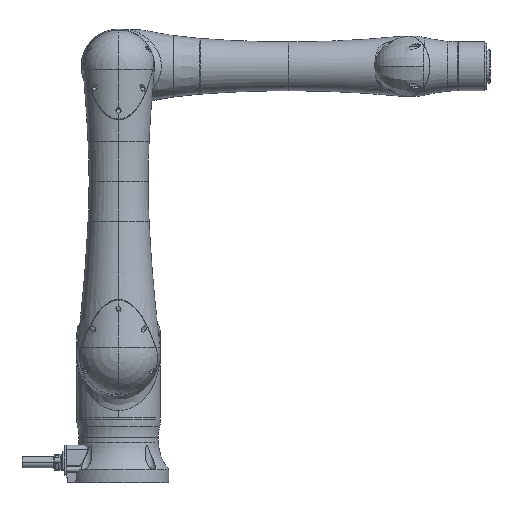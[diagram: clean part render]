
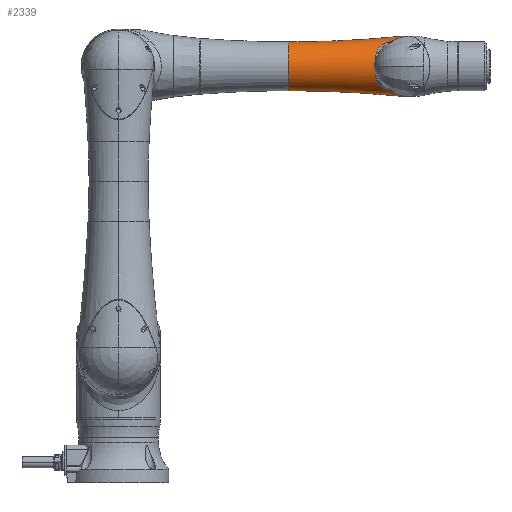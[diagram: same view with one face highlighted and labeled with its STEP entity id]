
A CAD part, front view. The second image highlights one B-rep face of the part: STEP entity #2339.
In plain terms, the highlighted toroidal (fillet/blend) face has major radius 2188.66 mm and minor radius 2142.66 mm.
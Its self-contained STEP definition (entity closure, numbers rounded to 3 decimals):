
#2339=ADVANCED_FACE('',(#5158),#5159,.F.);
#5158=FACE_OUTER_BOUND('',#28033,.T.);
#5159=TOROIDAL_SURFACE('',#28034,2188.661,2142.661);
#28033=EDGE_LOOP('',(#41183,#41184,#41185,#41186,#41187,#41188,#41189));
#28034=AXIS2_PLACEMENT_3D('',#41190,#41191,#41192);
#41183=ORIENTED_EDGE('',*,*,#48132,.F.);
#41184=ORIENTED_EDGE('',*,*,#48133,.T.);
#41185=ORIENTED_EDGE('',*,*,#48134,.T.);
#41186=ORIENTED_EDGE('',*,*,#48135,.T.);
#41187=ORIENTED_EDGE('',*,*,#48136,.T.);
#41188=ORIENTED_EDGE('',*,*,#48137,.T.);
#41189=ORIENTED_EDGE('',*,*,#48138,.T.);
#41190=CARTESIAN_POINT('',(-219.23,0.0,0.0));
#41191=DIRECTION('',(-1.0,0.0,0.0));
#41192=DIRECTION('',(0.0,0.0,1.0));
#48132=EDGE_CURVE('',#52501,#52502,#52503,.T.);
#48133=EDGE_CURVE('',#52501,#52504,#52505,.T.);
#48134=EDGE_CURVE('',#52504,#52506,#52507,.T.);
#48135=EDGE_CURVE('',#52506,#52508,#52509,.T.);
#48136=EDGE_CURVE('',#52508,#52510,#52511,.T.);
#48137=EDGE_CURVE('',#52510,#52512,#52513,.T.);
#48138=EDGE_CURVE('',#52512,#52502,#52514,.T.);
#52501=VERTEX_POINT('',#68999);
#52502=VERTEX_POINT('',#69000);
#52503=CIRCLE('',#69001,46.);
#52504=VERTEX_POINT('',#69002);
#52505=CIRCLE('',#69003,2142.661);
#52506=VERTEX_POINT('',#69004);
#52507=CIRCLE('',#69005,56.761);
#52508=VERTEX_POINT('',#69006);
#52509=B_SPLINE_CURVE_WITH_KNOTS('',3,(#69007,#69008,#69009,#69010,#69011,#69012,#69013,#69014,#69015,#69016,#69017,#69018,#69019,#69020,#69021,#69022,#69023,#69024,#69025,#69026,#69027,#69028,#69029,#69030,#69031,#69032,#69033,#69034,#69035,#69036,#69037,#69038,#69039,#69040,#69041,#69042,#69043,#69044,#69045,#69046),.UNSPECIFIED.,.F.,.F.,(4,1,1,1,1,1,1,1,1,1,1,1,1,1,1,1,1,1,1,1,1,1,1,1,1,1,1,1,1,1,1,1,1,1,1,1,1,4),(0.0,0.009,0.019,0.028,0.037,0.047,0.056,0.065,0.075,0.084,0.124,0.164,0.203,0.24,0.275,0.31,0.342,0.375,0.406,0.436,0.493,0.549,0.603,0.631,0.659,0.714,0.77,0.799,0.828,0.857,0.886,0.915,0.929,0.943,0.957,0.971,0.986,1.0),.UNSPECIFIED.);
#52510=VERTEX_POINT('',#69047);
#52511=B_SPLINE_CURVE_WITH_KNOTS('',3,(#69048,#69049,#69050,#69051,#69052,#69053,#69054,#69055,#69056,#69057,#69058,#69059,#69060,#69061,#69062,#69063,#69064,#69065,#69066,#69067,#69068,#69069,#69070,#69071,#69072,#69073,#69074,#69075,#69076,#69077,#69078,#69079,#69080,#69081,#69082,#69083,#69084),.UNSPECIFIED.,.F.,.F.,(4,1,1,1,1,1,1,1,1,1,1,1,1,1,1,1,1,1,1,1,1,1,1,1,1,1,1,1,1,1,1,1,1,1,4),(0.0,0.007,0.015,0.022,0.031,0.039,0.048,0.057,0.071,0.086,0.1,0.114,0.143,0.172,0.202,0.23,0.286,0.314,0.342,0.397,0.451,0.507,0.565,0.626,0.69,0.76,0.797,0.835,0.875,0.915,0.932,0.949,0.966,0.983,1.0),.UNSPECIFIED.);
#52512=VERTEX_POINT('',#69085);
#52513=CIRCLE('',#69086,56.761);
#52514=CIRCLE('',#69087,2142.661);
#68999=CARTESIAN_POINT('',(-219.23,0.,-46.));
#69000=CARTESIAN_POINT('',(-219.23,0.,46.));
#69001=AXIS2_PLACEMENT_3D('',#80707,#80708,#80709);
#69002=CARTESIAN_POINT('',(-4.753,0.,-56.761));
#69003=AXIS2_PLACEMENT_3D('',#80710,#80711,#80712);
#69004=CARTESIAN_POINT('',(-4.753,-25.13,-50.895));
#69005=AXIS2_PLACEMENT_3D('',#80713,#80714,#80715);
#69006=CARTESIAN_POINT('',(-55.235,-52.285,0.));
#69007=CARTESIAN_POINT('',(-4.753,-25.13,-50.895));
#69008=CARTESIAN_POINT('',(-5.034,-25.122,-50.868));
#69009=CARTESIAN_POINT('',(-5.596,-25.106,-50.813));
#69010=CARTESIAN_POINT('',(-6.439,-25.094,-50.725));
#69011=CARTESIAN_POINT('',(-7.28,-25.09,-50.633));
#69012=CARTESIAN_POINT('',(-8.12,-25.096,-50.537));
#69013=CARTESIAN_POINT('',(-8.958,-25.111,-50.437));
#69014=CARTESIAN_POINT('',(-9.794,-25.136,-50.333));
#69015=CARTESIAN_POINT('',(-10.629,-25.17,-50.224));
#69016=CARTESIAN_POINT('',(-11.463,-25.212,-50.112));
#69017=CARTESIAN_POINT('',(-13.217,-25.322,-49.866));
#69018=CARTESIAN_POINT('',(-15.876,-25.566,-49.455));
#69019=CARTESIAN_POINT('',(-19.359,-26.051,-48.829));
#69020=CARTESIAN_POINT('',(-22.72,-26.675,-48.135));
#69021=CARTESIAN_POINT('',(-25.892,-27.412,-47.386));
#69022=CARTESIAN_POINT('',(-28.902,-28.253,-46.574));
#69023=CARTESIAN_POINT('',(-31.72,-29.173,-45.709));
#69024=CARTESIAN_POINT('',(-34.384,-30.174,-44.776));
#69025=CARTESIAN_POINT('',(-36.883,-31.24,-43.776));
#69026=CARTESIAN_POINT('',(-39.228,-32.365,-42.702));
#69027=CARTESIAN_POINT('',(-42.084,-33.905,-41.196));
#69028=CARTESIAN_POINT('',(-45.276,-35.946,-39.103));
#69029=CARTESIAN_POINT('',(-48.506,-38.542,-36.182));
#69030=CARTESIAN_POINT('',(-50.671,-40.746,-33.385));
#69031=CARTESIAN_POINT('',(-52.086,-42.47,-30.941));
#69032=CARTESIAN_POINT('',(-53.306,-44.165,-28.339));
#69033=CARTESIAN_POINT('',(-54.422,-46.188,-24.803));
#69034=CARTESIAN_POINT('',(-55.049,-47.948,-21.006));
#69035=CARTESIAN_POINT('',(-55.334,-49.175,-17.804));
#69036=CARTESIAN_POINT('',(-55.456,-49.995,-15.324));
#69037=CARTESIAN_POINT('',(-55.488,-50.701,-12.783));
#69038=CARTESIAN_POINT('',(-55.455,-51.277,-10.243));
#69039=CARTESIAN_POINT('',(-55.397,-51.651,-8.118));
#69040=CARTESIAN_POINT('',(-55.349,-51.887,-6.415));
#69041=CARTESIAN_POINT('',(-55.312,-52.03,-5.15));
#69042=CARTESIAN_POINT('',(-55.28,-52.144,-3.871));
#69043=CARTESIAN_POINT('',(-55.256,-52.225,-2.575));
#69044=CARTESIAN_POINT('',(-55.238,-52.276,-1.277));
#69045=CARTESIAN_POINT('',(-55.236,-52.282,-0.417));
#69046=CARTESIAN_POINT('',(-55.235,-52.285,0.));
#69047=CARTESIAN_POINT('',(-4.753,-25.13,50.895));
#69048=CARTESIAN_POINT('',(-55.235,-52.285,0.));
#69049=CARTESIAN_POINT('',(-55.235,-52.284,0.214));
#69050=CARTESIAN_POINT('',(-55.236,-52.283,0.652));
#69051=CARTESIAN_POINT('',(-55.24,-52.269,1.325));
#69052=CARTESIAN_POINT('',(-55.248,-52.246,2.03));
#69053=CARTESIAN_POINT('',(-55.259,-52.212,2.767));
#69054=CARTESIAN_POINT('',(-55.273,-52.164,3.536));
#69055=CARTESIAN_POINT('',(-55.29,-52.103,4.336));
#69056=CARTESIAN_POINT('',(-55.314,-52.013,5.307));
#69057=CARTESIAN_POINT('',(-55.343,-51.884,6.438));
#69058=CARTESIAN_POINT('',(-55.38,-51.707,7.716));
#69059=CARTESIAN_POINT('',(-55.414,-51.498,8.991));
#69060=CARTESIAN_POINT('',(-55.451,-51.176,10.692));
#69061=CARTESIAN_POINT('',(-55.477,-50.694,12.813));
#69062=CARTESIAN_POINT('',(-55.442,-49.986,15.358));
#69063=CARTESIAN_POINT('',(-55.321,-49.165,17.834));
#69064=CARTESIAN_POINT('',(-55.038,-47.937,21.032));
#69065=CARTESIAN_POINT('',(-54.532,-46.526,24.073));
#69066=CARTESIAN_POINT('',(-53.729,-44.956,26.958));
#69067=CARTESIAN_POINT('',(-52.723,-43.326,29.686));
#69068=CARTESIAN_POINT('',(-51.091,-41.177,32.84));
#69069=CARTESIAN_POINT('',(-48.494,-38.535,36.191));
#69070=CARTESIAN_POINT('',(-45.239,-35.935,39.118));
#69071=CARTESIAN_POINT('',(-41.338,-33.451,41.664));
#69072=CARTESIAN_POINT('',(-36.828,-31.149,43.869));
#69073=CARTESIAN_POINT('',(-31.673,-29.087,45.784));
#69074=CARTESIAN_POINT('',(-26.905,-27.647,47.146));
#69075=CARTESIAN_POINT('',(-22.751,-26.681,48.128));
#69076=CARTESIAN_POINT('',(-19.397,-26.056,48.822));
#69077=CARTESIAN_POINT('',(-15.92,-25.57,49.448));
#69078=CARTESIAN_POINT('',(-13.038,-25.304,49.894));
#69079=CARTESIAN_POINT('',(-10.832,-25.175,50.199));
#69080=CARTESIAN_POINT('',(-9.319,-25.117,50.394));
#69081=CARTESIAN_POINT('',(-7.801,-25.09,50.576));
#69082=CARTESIAN_POINT('',(-6.279,-25.09,50.744));
#69083=CARTESIAN_POINT('',(-5.262,-25.117,50.845));
#69084=CARTESIAN_POINT('',(-4.753,-25.13,50.895));
#69085=CARTESIAN_POINT('',(-4.753,0.,56.761));
#69086=AXIS2_PLACEMENT_3D('',#80716,#80717,#80718);
#69087=AXIS2_PLACEMENT_3D('',#80719,#80720,#80721);
#80707=CARTESIAN_POINT('',(-219.23,0.0,0.0));
#80708=DIRECTION('',(-1.0,0.0,0.0));
#80709=DIRECTION('',(0.0,-0.0,1.0));
#80710=CARTESIAN_POINT('',(-219.23,0.,-2188.661));
#80711=DIRECTION('',(0.0,1.0,0.));
#80712=DIRECTION('',(0.0,0.,-1.0));
#80713=CARTESIAN_POINT('',(-4.753,0.0,0.0));
#80714=DIRECTION('',(-1.0,0.0,0.0));
#80715=DIRECTION('',(0.0,0.0,1.0));
#80716=CARTESIAN_POINT('',(-4.753,0.0,0.0));
#80717=DIRECTION('',(-1.0,0.0,0.0));
#80718=DIRECTION('',(0.0,0.0,1.0));
#80719=CARTESIAN_POINT('',(-219.23,0.,2188.661));
#80720=DIRECTION('',(0.0,1.0,0.));
#80721=DIRECTION('',(-0.0,0.,1.0));
